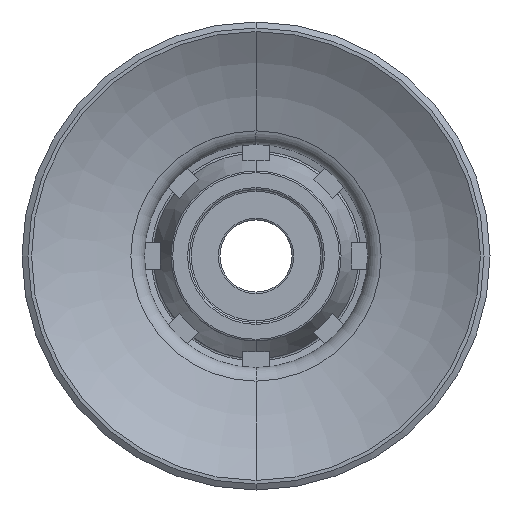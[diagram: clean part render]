
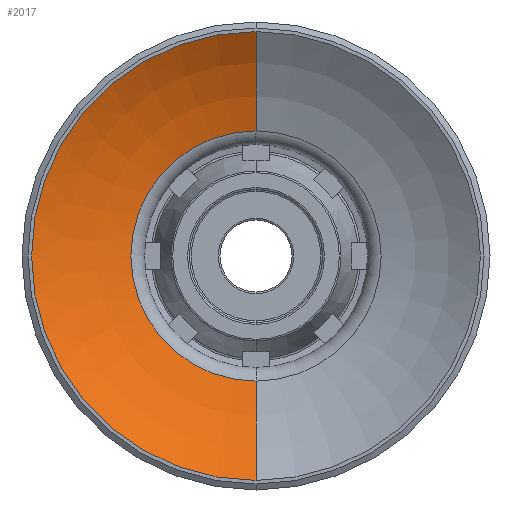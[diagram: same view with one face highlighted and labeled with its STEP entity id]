
A CAD part, front view. The second image highlights one B-rep face of the part: STEP entity #2017.
In plain terms, the highlighted toroidal (fillet/blend) face has major radius 5.321 mm and minor radius 34.355 mm.
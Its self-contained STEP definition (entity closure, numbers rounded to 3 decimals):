
#50 = AXIS2_PLACEMENT_3D ( 'NONE', #1595, #3682, #2295 ) ;
#94 = CIRCLE ( 'NONE', #3173, 34.355 ) ;
#151 = CIRCLE ( 'NONE', #50, 24.939 ) ;
#233 = EDGE_LOOP ( 'NONE', ( #4175, #2259, #3353, #4497 ) ) ;
#796 = CARTESIAN_POINT ( 'NONE',  ( 0., -42.937, 13.901 ) ) ;
#847 = CARTESIAN_POINT ( 'NONE',  ( 0., -48., 24.939 ) ) ;
#867 = DIRECTION ( 'NONE',  ( -1., 0., 0. ) ) ;
#993 = AXIS2_PLACEMENT_3D ( 'NONE', #2955, #3301, #1152 ) ;
#1093 = VERTEX_POINT ( 'NONE', #796 ) ;
#1152 = DIRECTION ( 'NONE',  ( 0., 0., 1. ) ) ;
#1167 = EDGE_CURVE ( 'NONE', #3501, #1093, #2712, .T. ) ;
#1417 = CARTESIAN_POINT ( 'NONE',  ( 0., -42.937, 0. ) ) ;
#1463 = CARTESIAN_POINT ( 'NONE',  ( 0., -76.203, -5.321 ) ) ;
#1595 = CARTESIAN_POINT ( 'NONE',  ( 0., -48., 0. ) ) ;
#1609 = EDGE_CURVE ( 'NONE', #1838, #4451, #94, .T. ) ;
#1744 = AXIS2_PLACEMENT_3D ( 'NONE', #1417, #3869, #1785 ) ;
#1785 = DIRECTION ( 'NONE',  ( 0., 0., 1. ) ) ;
#1838 = VERTEX_POINT ( 'NONE', #3364 ) ;
#2017 = ADVANCED_FACE ( 'NONE', ( #2533 ), #3830, .F. ) ;
#2259 = ORIENTED_EDGE ( 'NONE', *, *, #1609, .T. ) ;
#2295 = DIRECTION ( 'NONE',  ( 0., 0., 1. ) ) ;
#2327 = CIRCLE ( 'NONE', #1744, 13.901 ) ;
#2532 = AXIS2_PLACEMENT_3D ( 'NONE', #4021, #867, #3651 ) ;
#2533 = FACE_OUTER_BOUND ( 'NONE', #233, .T. ) ;
#2712 = CIRCLE ( 'NONE', #2532, 34.355 ) ;
#2915 = DIRECTION ( 'NONE',  ( 1., 0., 0. ) ) ;
#2955 = CARTESIAN_POINT ( 'NONE',  ( 0., -76.203, 0. ) ) ;
#3173 = AXIS2_PLACEMENT_3D ( 'NONE', #1463, #2915, #3593 ) ;
#3301 = DIRECTION ( 'NONE',  ( 0., 1., 0. ) ) ;
#3353 = ORIENTED_EDGE ( 'NONE', *, *, #4309, .T. ) ;
#3364 = CARTESIAN_POINT ( 'NONE',  ( 0., -48., -24.939 ) ) ;
#3501 = VERTEX_POINT ( 'NONE', #847 ) ;
#3579 = EDGE_CURVE ( 'NONE', #1838, #3501, #151, .T. ) ;
#3593 = DIRECTION ( 'NONE',  ( 0., 0., -1. ) ) ;
#3651 = DIRECTION ( 'NONE',  ( 0., 0., 1. ) ) ;
#3682 = DIRECTION ( 'NONE',  ( 0., 1., 0. ) ) ;
#3830 = TOROIDAL_SURFACE ( 'NONE', #993, 5.321, 34.355 ) ;
#3869 = DIRECTION ( 'NONE',  ( 0., 1., 0. ) ) ;
#4021 = CARTESIAN_POINT ( 'NONE',  ( 0., -76.203, 5.321 ) ) ;
#4175 = ORIENTED_EDGE ( 'NONE', *, *, #3579, .F. ) ;
#4309 = EDGE_CURVE ( 'NONE', #4451, #1093, #2327, .T. ) ;
#4363 = CARTESIAN_POINT ( 'NONE',  ( 0., -42.937, -13.901 ) ) ;
#4451 = VERTEX_POINT ( 'NONE', #4363 ) ;
#4497 = ORIENTED_EDGE ( 'NONE', *, *, #1167, .F. ) ;
